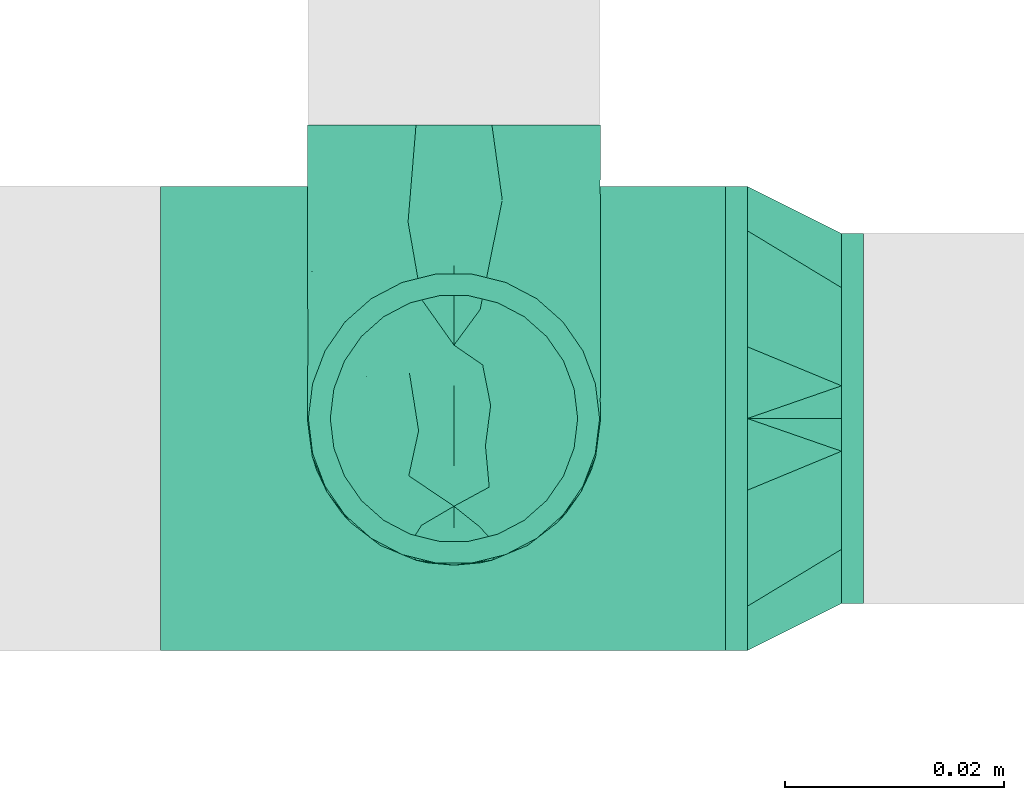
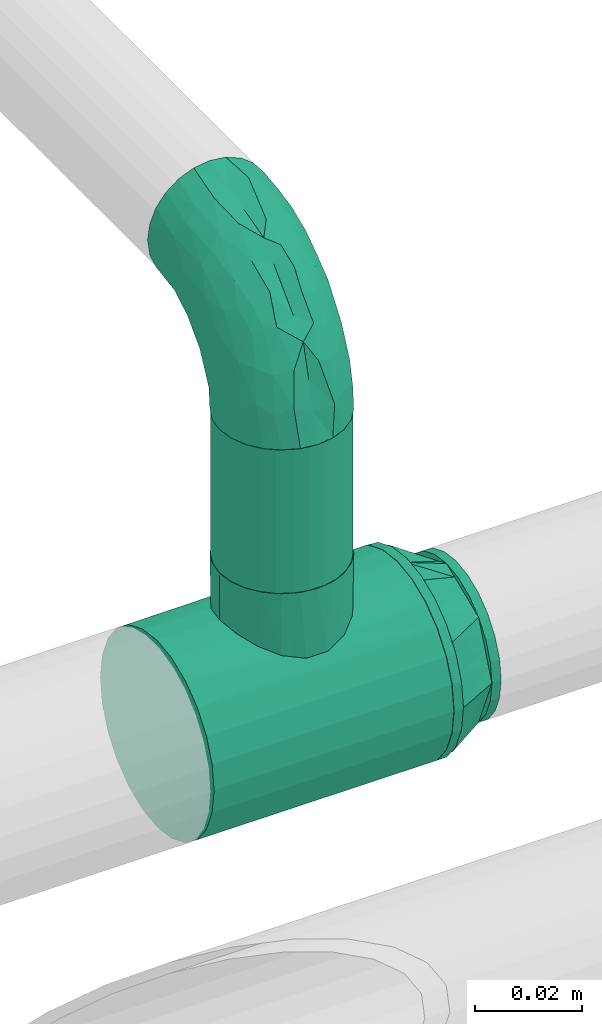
# One storey, part 18 of 35: 3 flow fittings, 1 flow segment.
"""IFC2X3 building model written with IfcOpenShell, lengths in millimetres."""

from ifc_helpers import new_model, entity, si_unit, converted_unit, derived_unit, direction, frame, origin_with_axes, origin_2d_with_axis, place, context, subcontext, project, spatial, hollow_circle, extrude, open_shell, surface_model, source, transform, mapped, type_object, element, save


model = new_model("IFC2X3")

# Units and contexts
model_context = context("Model", 3, precision=0.01, world=frame((0.0, 4.29681676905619e-09, 0.0)), true_north=direction((4.01073788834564e-13, 1.0)))
plan_context = context("Plan", 3, precision=0.01, world=frame((0.0, 4.29681676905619e-09, 0.0)), true_north=direction((4.01073788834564e-13, 1.0)))
body_context = subcontext(model_context, "Body", "Model", "MODEL_VIEW")
ifc_project = project(units=[converted_unit("PLANEANGLEUNIT", "DEGREE", entity("IfcPositiveLengthMeasure", 0.0174532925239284), si_unit("PLANEANGLEUNIT", "RADIAN"), dimensions=[0, 0, 0, 0, 0, 0, 0]), si_unit("AREAUNIT", "SQUARE_METRE"), si_unit("LENGTHUNIT", "METRE", prefix="MILLI"), si_unit("MASSUNIT", "GRAM", prefix="KILO"), si_unit("POWERUNIT", "WATT"), si_unit("PRESSUREUNIT", "PASCAL"), si_unit("FORCEUNIT", "NEWTON", prefix="KILO"), si_unit("ELECTRICVOLTAGEUNIT", "VOLT"), si_unit("ELECTRICCURRENTUNIT", "AMPERE"), si_unit("THERMODYNAMICTEMPERATUREUNIT", "DEGREE_CELSIUS"), si_unit("TIMEUNIT", "SECOND"), si_unit("VOLUMEUNIT", "CUBIC_METRE"), derived_unit("LINEARVELOCITYUNIT", [(si_unit("LENGTHUNIT", "METRE"), 1), (si_unit("TIMEUNIT", "SECOND"), -1)]), derived_unit("VOLUMETRICFLOWRATEUNIT", [(si_unit("VOLUMEUNIT", "CUBIC_METRE"), 1), (si_unit("TIMEUNIT", "SECOND"), -1)]), derived_unit("THERMALTRANSMITTANCEUNIT", [(si_unit("POWERUNIT", "WATT"), 1), (si_unit("THERMODYNAMICTEMPERATUREUNIT", "KELVIN"), -1), (si_unit("AREAUNIT", "SQUARE_METRE"), -1)]), derived_unit("SOUNDPRESSUREUNIT", [(si_unit("PRESSUREUNIT", "PASCAL"), 1)])], contexts=[model_context, plan_context])

# Site, building, storey
site_placement = place(None, frame((0.0, -4.29681676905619e-09, 0.0), z_axis=(0.0, 0.0, 1.0), x_axis=(1.0, 0.0, 0.0)))
site = spatial("IfcSite", under=ifc_project, at=site_placement, Name="ENGM", CompositionType="ELEMENT")
building_placement = place(site_placement, frame((0.0, 4.29681676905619e-09, 0.0), z_axis=(0.0, 0.0, 1.0), x_axis=(1.0, 0.0, 0.0)))
building = spatial("IfcBuilding", under=site, at=building_placement, Name="TH", CompositionType="ELEMENT")
storey_placement = place(building_placement, frame((0.0, 0.0, 210200.0), z_axis=(0.0, 0.0, 1.0), x_axis=(1.0, 0.0, 0.0)))
storey = spatial("IfcBuildingStorey", under=building, at=storey_placement, Name="Nivå F - 0,7 m", CompositionType="ELEMENT", Elevation=210200.0)

# Flow fittings
pipe_fitting_type_1 = type_object("IfcPipeFittingType", Name="magi_pipe_fe_elbow_short_001", PredefinedType="BEND")
shared_shape_1 = source(origin_with_axes(), body_context, "Body", "SurfaceModel", [
    surface_model("IfcShellBasedSurfaceModel", [(-26.8, 0.0, -13.4), (-26.8, -12.94341, -3.46818), (-26.8, 3.46818, -12.94341), (-26.8, 6.7, -11.60474), (-26.8, 9.47523, -9.47523), (-26.8, 11.60474, -6.7), (-26.8, 11.60474, 6.7), (-26.8, -9.47523, -9.47523), (-26.8, -6.7, -11.60474), (-26.8, -3.46818, -12.94341), (-26.8, -11.60474, -6.7), (-26.8, -13.4, 0.0), (-26.8, -12.94341, 3.46818), (-26.8, 12.94341, -3.46818), (-26.8, 12.94341, 3.46818), (-26.8, 3.46818, 12.94341), (-26.8, 6.7, 11.60474), (-26.8, 9.47523, 9.47523), (-26.8, -6.7, 11.60474), (-26.8, -11.60474, 6.7), (-26.8, -9.47523, 9.47523), (-26.8, -3.46818, 12.94341), (-26.8, 0.0, 13.4), (-26.8, 13.4, 0.0), (-3.46818, 26.8, -12.94341), (12.94341, 26.8, -3.46818), (0.0, 26.8, -13.4), (-9.47523, 26.8, -9.47523), (-6.7, 26.8, -11.60474), (-11.60474, 26.8, -6.7), (-11.60474, 26.8, 6.7), (6.7, 26.8, -11.60474), (9.47523, 26.8, -9.47523), (3.46818, 26.8, -12.94341), (11.60474, 26.8, -6.7), (12.94341, 26.8, 3.46818), (13.4, 26.8, 0.0), (-13.4, 26.8, 0.0), (-12.94341, 26.8, -3.46818), (-12.94341, 26.8, 3.46818), (-9.47523, 26.8, 9.47523), (-6.7, 26.8, 11.60474), (-3.46818, 26.8, 12.94341), (6.7, 26.8, 11.60474), (9.47523, 26.8, 9.47523), (11.60474, 26.8, 6.7), (3.46818, 26.8, 12.94341), (0.0, 26.8, 13.4), (-17.94383, -11.72186, 4.19396), (-19.61933, -10.40522, 7.51874), (-14.00394, -9.97131, 0.0), (-10.88146, -9.75217, 2.96415), (5.6402, 4.14256, 4.06277), (2.9355, 3.86758, 7.99817), (-0.16552, -0.70254, 6.90229), (-11.69279, -8.47867, 6.74741), (-3.60975, -5.23517, 4.12915), (-20.40197, -11.68565, 0.0), (6.07727, 10.7767, 9.16668), (7.71917, 17.5318, 9.98024), (3.23022, 10.34855, 11.14395), (-17.5318, -7.71917, 9.98024), (-19.6814, -5.06542, 12.05518), (-20.47091, -1.77513, 13.17083), (-18.76435, 2.05404, 13.37716), (-10.34855, -3.23022, 11.14395), (-13.34095, -0.12025, 12.98799), (-20.6562, 5.25542, 12.65822), (-21.01515, 11.15223, 8.78653), (-19.1981, 14.0055, 6.12639), (-23.45804, 12.58298, 5.55254), (-13.79572, 19.62699, 6.0655), (-4.65712, 13.17755, 13.37596), (-9.92557, 9.92557, 13.07441), (-7.97904, 5.85569, 13.33097), (-14.12498, 14.96497, 9.49183), (-23.18377, 8.11481, 10.91864), (-3.49778, 8.97497, 13.15743), (-6.65819, 2.45826, 12.5129), (-1.36893, 7.23965, 12.31444), (-22.3163, 13.71444, 3.37662), (-20.76788, 15.89859, 0.0), (-5.00198, 23.11411, 12.55149), (-1.83653, 20.04451, 13.36709), (5.06542, 19.6814, 12.05518), (-4.60225, -3.19632, 8.30444), (-2.39362, 2.39362, 10.95564), (1.77513, 20.47091, 13.17083), (10.40522, 19.61933, 7.51874), (8.47867, 11.69279, 6.74741), (11.72186, 17.94383, 4.19396), (-10.7767, -6.07727, 9.16668), (-14.71477, 20.20527, 3.11661), (-18.32912, 15.92283, 3.19527), (9.75217, 10.88146, 2.96415), (9.97131, 14.00394, 0.0), (11.68565, 20.40197, 0.0), (-17.32477, 17.32477, 0.0), (8.01422, 6.7, 0.0), (-11.0099, 17.80242, 10.25412), (-8.46783, 20.75346, 11.10693), (-11.06207, 21.36651, 8.74797), (-10.13559, 14.48567, 11.94159), (-5.79525, 18.15733, 12.76163), (-14.31139, 12.02432, 11.13575), (-6.7, -8.01422, 0.0), (-14.72492, 5.73985, 13.1602), (-13.14892, 3.28357, 13.39428), (-14.24576, 9.09225, 12.39421), (-7.80572, 13.90987, 12.83655), (0.12025, 13.34095, 12.98799), (-18.45241, 9.09615, 11.28418), (-1.02036, 0.84565, 9.15855), (-3.66591, -4.13183, 6.30134), (-3.02144, -4.33567, 0.0), (1.56761, -1.1228, 3.23127), (-15.89859, 20.76788, 0.0), (4.33567, 3.02144, 0.0), (0.65711, -0.65711, 0.0), (-21.21323, 1.69434, -13.35639), (-11.59215, 19.61477, -8.94181), (-19.9553, -12.05444, -4.41231), (-20.61911, 5.26132, -12.65979), (-18.29002, 15.89425, -3.37935), (-10.94714, -3.38176, -11.24231), (-11.6358, -0.16715, -12.74497), (-5.38395, -0.22423, -10.97991), (-19.45447, 8.78609, -11.20697), (-21.18665, 11.10723, -8.76769), (8.05635, 19.80434, -10.14754), (-16.16073, 12.27967, -10.10626), (-10.65974, -9.81032, -2.24682), (-4.63434, -6.26604, -3.21731), (-12.41035, 15.57424, -10.31822), (-9.54276, 16.38525, -11.6371), (-12.38435, 12.38435, -11.76567), (-1.18054, -2.52878, -5.66699), (1.17703, 2.36499, -8.51656), (4.94456, 3.94062, -5.27361), (-13.23013, 7.7548, -12.95755), (-18.92609, -10.30887, -7.4546), (-19.80434, -8.05635, -10.14754), (-5.46999, 19.49566, -12.70683), (12.05444, 19.9553, -4.41231), (-22.63124, -5.28269, -12.19553), (-11.57403, -7.91736, -7.4927), (-10.00514, -5.4662, -9.37392), (0.56412, 6.29454, -11.17498), (0.16715, 11.6358, -12.74497), (2.76952, 11.43973, -11.70622), (-22.71135, 13.83144, -2.294), (-13.13887, 21.26515, -5.84046), (-14.02683, 21.74629, -2.98452), (10.30887, 18.92609, -7.4546), (-4.73052, 4.73052, -12.6532), (-16.28385, 15.93209, -6.57302), (-1.69434, 21.21323, -13.35639), (-8.4106, 21.03687, -11.08508), (1.68957, 19.74249, -13.15499), (5.28269, 22.63124, -12.19553), (-19.74249, -1.68957, -13.15499), (-16.96978, -4.62448, -11.91765), (-3.16773, 14.76219, -13.39711), (-7.24575, 7.81916, -13.39239), (-7.92886, 12.7032, -13.00116), (-6.57993, -6.26304, -6.05124), (9.46363, 9.95483, -2.39006), (6.59847, 4.89531, -2.6225), (0.29079, -2.47661, -2.876), (-21.42347, 13.17132, -5.65321), (9.35918, 11.66841, -5.08525), (8.33374, 12.94014, -7.69724), (5.4662, 10.00514, -9.37392), (4.62448, 16.96978, -11.91765), (-3.89324, -2.60816, -8.35445), (5.97121, 7.49007, -7.29975), (-14.76219, 3.16773, -13.39711), (-15.36238, 22.06238, 0.0), (-11.66841, -9.35918, -5.08525), (3.63632, 1.19488, -3.35093), (-14.94382, 15.17624, -8.6945)], [open_shell([[[0, 1, 2]], [[3, 2, 4]], [[5, 2, 1]], [[4, 2, 5]], [[5, 1, 6]], [[7, 1, 8]], [[0, 9, 8]], [[10, 1, 7]], [[8, 1, 0]], [[11, 12, 1]], [[13, 5, 14]], [[5, 6, 14]], [[1, 15, 6]], [[15, 16, 17]], [[6, 15, 17]], [[1, 18, 15]], [[19, 20, 12]], [[18, 12, 20]], [[18, 21, 15]], [[18, 1, 12]], [[15, 21, 22]], [[14, 23, 13]], [[24, 25, 26]], [[27, 24, 28]], [[25, 24, 29]], [[29, 24, 27]], [[30, 25, 29]], [[31, 25, 32]], [[31, 33, 26]], [[32, 25, 34]], [[26, 25, 31]], [[25, 35, 36]], [[37, 29, 38]], [[39, 30, 29]], [[30, 40, 25]], [[40, 41, 42]], [[42, 25, 40]], [[43, 25, 42]], [[35, 44, 45]], [[44, 35, 43]], [[42, 46, 43]], [[35, 25, 43]], [[47, 46, 42]], [[39, 29, 37]], [[48, 49, 19]], [[48, 50, 51]], [[52, 53, 54]], [[55, 51, 56]], [[49, 20, 19]], [[57, 48, 12]], [[58, 59, 60]], [[61, 18, 20]], [[61, 62, 18]], [[22, 63, 64]], [[62, 65, 66]], [[59, 44, 43]], [[22, 21, 63]], [[67, 16, 15]], [[68, 69, 70]], [[30, 39, 71]], [[72, 73, 74]], [[69, 68, 75]], [[22, 64, 15]], [[16, 76, 17]], [[6, 17, 68]], [[77, 78, 79]], [[80, 81, 23]], [[42, 82, 83]], [[43, 84, 59]], [[85, 86, 65]], [[46, 47, 87]], [[88, 89, 90]], [[91, 65, 61]], [[47, 42, 83]], [[71, 92, 93]], [[90, 94, 95]], [[84, 43, 46]], [[88, 90, 45]], [[59, 84, 60]], [[35, 45, 90]], [[75, 71, 69]], [[18, 62, 21]], [[90, 96, 35]], [[97, 81, 93]], [[94, 98, 95]], [[92, 97, 93]], [[50, 48, 57]], [[70, 14, 6]], [[99, 100, 101]], [[40, 101, 100]], [[41, 40, 100]], [[102, 103, 100]], [[103, 72, 83]], [[82, 100, 103]], [[82, 42, 41]], [[99, 104, 102]], [[23, 14, 80]], [[67, 15, 64]], [[51, 50, 105]], [[48, 19, 12]], [[49, 55, 61]], [[45, 44, 88]], [[89, 52, 94]], [[106, 107, 74]], [[108, 67, 106]], [[40, 30, 101]], [[103, 102, 109]], [[103, 109, 72]], [[87, 83, 110]], [[76, 68, 17]], [[68, 111, 104]], [[65, 62, 61]], [[63, 62, 66]], [[91, 61, 55]], [[65, 86, 78]], [[87, 84, 46]], [[110, 79, 60]], [[110, 60, 84]], [[86, 112, 60]], [[55, 49, 48]], [[61, 20, 49]], [[44, 59, 88]], [[89, 88, 59]], [[106, 67, 64]], [[76, 67, 111]], [[53, 52, 89]], [[112, 86, 85]], [[56, 113, 55]], [[112, 54, 53]], [[58, 89, 59]], [[56, 51, 105]], [[114, 115, 56]], [[14, 70, 80]], [[69, 71, 93]], [[37, 116, 92]], [[92, 116, 97]], [[30, 71, 101]], [[75, 101, 71]], [[99, 102, 100]], [[108, 104, 111]], [[106, 74, 73]], [[110, 83, 72]], [[78, 74, 66]], [[72, 74, 77]], [[83, 87, 47]], [[84, 87, 110]], [[62, 63, 21]], [[64, 63, 66]], [[12, 11, 57]], [[96, 90, 95]], [[96, 36, 35]], [[115, 117, 52]], [[56, 105, 114]], [[55, 48, 51]], [[89, 94, 90]], [[52, 98, 94]], [[106, 64, 107]], [[108, 106, 73]], [[102, 108, 73]], [[67, 108, 111]], [[102, 104, 108]], [[68, 104, 75]], [[64, 66, 107]], [[66, 74, 107]], [[65, 78, 66]], [[79, 78, 86]], [[60, 79, 86]], [[77, 79, 110]], [[72, 77, 110]], [[78, 77, 74]], [[67, 76, 16]], [[68, 76, 111]], [[100, 82, 41]], [[83, 82, 103]], [[68, 70, 6]], [[80, 69, 93]], [[69, 80, 70]], [[80, 93, 81]], [[55, 85, 91]], [[85, 65, 91]], [[60, 53, 58]], [[53, 89, 58]], [[54, 112, 85]], [[60, 112, 53]], [[85, 113, 54]], [[113, 115, 54]], [[55, 113, 85]], [[115, 113, 56]], [[71, 39, 92]], [[115, 114, 118]], [[37, 92, 39]], [[101, 75, 99]], [[99, 75, 104]], [[102, 73, 109]], [[72, 109, 73]], [[54, 115, 52]], [[117, 115, 118]], [[117, 98, 52]], [[2, 119, 0]], [[29, 27, 120]], [[121, 57, 1]], [[3, 122, 2]], [[97, 123, 81]], [[124, 125, 126]], [[127, 4, 128]], [[32, 129, 31]], [[127, 128, 130]], [[131, 132, 105]], [[133, 134, 135]], [[127, 3, 4]], [[136, 137, 138]], [[139, 122, 127]], [[4, 5, 128]], [[10, 140, 121]], [[141, 140, 7]], [[24, 142, 28]], [[95, 143, 96]], [[144, 8, 9]], [[145, 141, 146]], [[25, 36, 96]], [[147, 148, 149]], [[140, 10, 7]], [[23, 81, 150]], [[130, 133, 135]], [[151, 152, 38]], [[153, 34, 143]], [[147, 154, 148]], [[38, 29, 151]], [[120, 155, 151]], [[32, 153, 129]], [[26, 156, 24]], [[24, 156, 142]], [[143, 34, 25]], [[27, 28, 157]], [[123, 152, 155]], [[158, 33, 159]], [[144, 160, 161]], [[122, 3, 127]], [[148, 162, 158]], [[157, 28, 142]], [[162, 163, 164]], [[159, 33, 31]], [[165, 136, 132]], [[34, 153, 32]], [[166, 98, 167]], [[160, 9, 0]], [[161, 160, 125]], [[95, 166, 143]], [[50, 131, 105]], [[121, 1, 10]], [[168, 114, 132]], [[150, 169, 13]], [[167, 98, 117]], [[33, 158, 26]], [[164, 142, 162]], [[133, 157, 134]], [[7, 8, 141]], [[165, 145, 146]], [[170, 171, 153]], [[129, 172, 173]], [[126, 137, 174]], [[175, 137, 172]], [[148, 158, 173]], [[156, 158, 162]], [[149, 172, 147]], [[148, 154, 163]], [[119, 160, 0]], [[176, 163, 125]], [[176, 125, 160]], [[125, 154, 126]], [[169, 128, 5]], [[127, 130, 135]], [[139, 127, 135]], [[119, 122, 176]], [[120, 151, 29]], [[152, 97, 177]], [[142, 164, 134]], [[120, 27, 157]], [[152, 37, 38]], [[81, 123, 150]], [[123, 155, 169]], [[152, 123, 97]], [[140, 178, 121]], [[121, 178, 131]], [[144, 141, 8]], [[146, 141, 161]], [[25, 96, 143]], [[170, 153, 143]], [[129, 153, 171]], [[159, 129, 173]], [[137, 147, 172]], [[126, 154, 147]], [[172, 171, 175]], [[174, 137, 136]], [[137, 126, 147]], [[126, 146, 124]], [[117, 118, 179]], [[179, 138, 167]], [[128, 169, 155]], [[5, 13, 169]], [[57, 121, 50]], [[57, 11, 1]], [[122, 119, 2]], [[160, 119, 176]], [[158, 156, 26]], [[142, 156, 162]], [[162, 148, 163]], [[139, 135, 164]], [[125, 163, 154]], [[139, 163, 176]], [[163, 139, 164]], [[122, 139, 176]], [[155, 180, 128]], [[180, 120, 133]], [[180, 133, 130]], [[157, 133, 120]], [[142, 134, 157]], [[164, 135, 134]], [[128, 180, 130]], [[120, 180, 155]], [[152, 151, 155]], [[37, 152, 177]], [[169, 150, 123]], [[23, 150, 13]], [[121, 131, 50]], [[178, 165, 132]], [[178, 132, 131]], [[168, 132, 136]], [[145, 165, 178]], [[174, 165, 146]], [[178, 140, 145]], [[141, 145, 140]], [[179, 136, 138]], [[170, 166, 167]], [[168, 179, 118]], [[170, 167, 138]], [[143, 166, 170]], [[95, 98, 166]], [[117, 179, 167]], [[136, 179, 168]], [[129, 159, 31]], [[158, 159, 173]], [[160, 144, 9]], [[141, 144, 161]], [[175, 170, 138]], [[129, 171, 172]], [[170, 175, 171]], [[137, 175, 138]], [[148, 173, 149]], [[172, 149, 173]], [[165, 174, 136]], [[126, 174, 146]], [[146, 161, 124]], [[125, 124, 161]], [[114, 168, 118]], [[114, 105, 132]]])]),
])
flow_fitting_1_placement = place(storey_placement, frame((900037.00487, 481295.36097, 3070.04999999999), z_axis=(-1.0, 0.0, 0.0), x_axis=(0.0, 0.0, 1.0)))
element("IfcFlowFitting", 1, at=flow_fitting_1_placement, inside=storey, type_object=pipe_fitting_type_1, Name="magi_pipe_fe_elbow_short_001", context=body_context, shape_type="MappedRepresentation", body=[
    mapped(shared_shape_1, transform((0.0, 0.0, 0.0), scale=1.0)),
])
pipe_fitting_type_2 = type_object("IfcPipeFittingType", Name="magi_pipe_fe_tee_centric_90_NOR", PredefinedType="JUNCTION")
shared_shape_2 = source(origin_with_axes(), body_context, "Body", "SurfaceModel", [
    surface_model("IfcShellBasedSurfaceModel", [(26.8, -10.6, 18.35974), (26.8, -20.47763, 5.48696), (26.8, 10.6, 18.35974), (26.8, 0.0, 21.2), (-26.8, 0.0, -21.2), (-26.8, -5.48696, -20.47763), (-26.8, 5.48696, -20.47763), (-26.8, 10.6, -18.35974), (-26.8, 20.47763, -5.48696), (-26.8, 18.35974, -10.6), (-26.8, 14.99066, -14.99066), (-26.8, -14.99066, -14.99066), (-26.8, -18.35974, -10.6), (-26.8, -10.6, -18.35974), (-26.8, -20.47763, -5.48696), (-26.8, -21.2, 0.0), (-26.8, -18.35974, 10.6), (-26.8, 20.47763, 5.48696), (-26.8, 18.35974, 10.6), (-26.8, 10.6, 18.35974), (-26.8, 14.99066, 14.99066), (-26.8, 5.48696, 20.47763), (-26.8, 0.0, 21.2), (-26.8, -14.99066, 14.99066), (-26.8, -10.6, 18.35974), (-26.8, -20.47763, 5.48696), (-26.8, -5.48696, 20.47763), (-26.8, 21.2, 0.0), (26.8, 5.48696, -20.47763), (26.8, -5.48696, -20.47763), (26.8, 0.0, -21.2), (26.8, 14.99066, -14.99066), (26.8, 10.6, -18.35974), (26.8, 18.35974, -10.6), (26.8, 20.47763, -5.48696), (26.8, -21.2, 0.0), (26.8, -10.6, -18.35974), (26.8, -18.35974, -10.6), (26.8, -14.99066, -14.99066), (26.8, -20.47763, -5.48696), (26.8, 21.2, 0.0), (26.8, 20.47763, 5.48696), (26.8, 18.35974, 10.6), (26.8, 14.99066, 14.99066), (26.8, 5.48696, 20.47763), (26.8, -14.99066, 14.99066), (26.8, -18.35974, 10.6), (26.8, -5.48696, 20.47763), (26.8, -20.83881, 2.74348), (12.55421, -20.67578, 4.68529), (12.9771, -20.93789, 2.34264), (10.22302, -19.34917, 8.66313), (6.7557, -17.76287, 11.5724), (13.4, -21.2, 0.0), (2.38855, -16.60076, 13.1854), (26.8, -19.41868, 8.04348), (-10.22603, -19.35076, 8.65958), (-26.8, -19.41868, 8.04348), (-12.55467, -20.67607, 4.68405), (-26.8, -20.83881, 2.74348), (-12.97733, -20.93803, 2.34203), (-13.4, -21.2, 0.0), (-6.7569, -17.76332, 11.5717), (-2.39255, -16.60133, 13.18468), (6.7557, -17.76287, -11.5724), (-12.97733, -20.93803, -2.34203), (2.38855, -16.60076, -13.1854), (10.22302, -19.34917, -8.66313), (12.9771, -20.93789, -2.34264), (-26.8, -20.83881, -2.74348), (-12.55467, -20.67607, -4.68405), (12.55421, -20.67578, -4.68529), (26.8, -20.83881, -2.74348), (26.8, -19.41868, -8.04348), (-2.39255, -16.60133, -13.18468), (-6.7569, -17.76332, -11.5717), (-10.22603, -19.35076, -8.65958), (-26.8, -19.41868, -8.04348), (9.47523, -31.8, -9.47523), (0.0, -31.8, -13.4), (3.46818, -31.8, -12.94341), (6.7, -31.8, -11.60474), (11.60474, -31.8, -6.7), (12.94341, -31.8, -3.46818), (-12.94341, -31.8, 3.46818), (-12.94341, -31.8, -3.46818), (-3.46818, -31.8, -12.94341), (-9.47523, -31.8, -9.47523), (-6.7, -31.8, -11.60474), (-11.60474, -31.8, -6.7), (-13.4, -31.8, 0.0), (13.4, -31.8, 0.0), (12.94341, -31.8, 3.46818), (11.60474, -31.8, 6.7), (6.7, -31.8, 11.60474), (9.47523, -31.8, 9.47523), (3.46818, -31.8, 12.94341), (-9.47523, -31.8, 9.47523), (-11.60474, -31.8, 6.7), (-6.7, -31.8, 11.60474), (-3.46818, -31.8, 12.94341), (0.0, -31.8, 13.4), (-0.002, -16.60105, 13.18504), (4.57212, -17.18181, 12.3789), (4.57212, -17.18181, -12.3789), (-0.002, -16.60105, -13.18504)], [open_shell([[[0, 1, 2]], [[2, 3, 0]], [[4, 5, 6]], [[7, 6, 8]], [[8, 9, 10]], [[7, 8, 10]], [[8, 6, 5]], [[11, 12, 13]], [[5, 13, 12]], [[14, 15, 12]], [[5, 12, 16]], [[15, 16, 12]], [[8, 5, 16]], [[16, 17, 8]], [[18, 17, 19]], [[19, 17, 16]], [[20, 18, 19]], [[21, 19, 22]], [[23, 24, 16]], [[16, 15, 25]], [[26, 22, 24]], [[19, 16, 24]], [[19, 24, 22]], [[27, 8, 17]], [[28, 29, 30]], [[31, 28, 32]], [[33, 34, 28]], [[33, 28, 31]], [[35, 28, 34]], [[36, 37, 38]], [[37, 36, 29]], [[37, 35, 39]], [[35, 37, 29]], [[29, 28, 35]], [[34, 1, 35]], [[40, 41, 42]], [[40, 42, 2]], [[40, 2, 1]], [[2, 42, 43]], [[3, 2, 44]], [[1, 45, 46]], [[45, 1, 0]], [[0, 3, 47]], [[40, 1, 34]], [[48, 1, 49]], [[35, 48, 50]], [[1, 51, 49]], [[46, 45, 52]], [[35, 50, 53]], [[52, 51, 46]], [[54, 52, 45]], [[48, 49, 50]], [[45, 23, 54]], [[46, 51, 55]], [[56, 16, 57]], [[58, 59, 60]], [[61, 60, 15]], [[58, 56, 25]], [[62, 63, 23]], [[51, 1, 55]], [[62, 16, 56]], [[16, 62, 23]], [[56, 57, 25]], [[63, 54, 23]], [[15, 60, 59]], [[58, 25, 59]], [[45, 24, 23]], [[22, 47, 3]], [[26, 0, 47]], [[21, 3, 44]], [[42, 41, 17]], [[20, 2, 43]], [[18, 43, 42]], [[44, 2, 19]], [[27, 41, 40]], [[24, 0, 26]], [[26, 47, 22]], [[21, 22, 3]], [[44, 19, 21]], [[19, 2, 20]], [[18, 20, 43]], [[17, 18, 42]], [[41, 27, 17]], [[0, 24, 45]], [[9, 34, 33]], [[8, 40, 34]], [[10, 33, 31]], [[30, 29, 5]], [[6, 32, 28]], [[4, 28, 30]], [[31, 32, 7]], [[13, 29, 36]], [[27, 40, 8]], [[8, 34, 9]], [[10, 9, 33]], [[31, 7, 10]], [[7, 32, 6]], [[4, 6, 28]], [[5, 4, 30]], [[29, 13, 5]], [[36, 11, 13]], [[38, 37, 64]], [[15, 65, 61]], [[64, 66, 38]], [[37, 67, 64]], [[38, 66, 11]], [[53, 68, 35]], [[69, 70, 65]], [[71, 67, 39]], [[71, 72, 68]], [[67, 37, 73]], [[39, 67, 73]], [[74, 75, 11]], [[76, 14, 77]], [[12, 11, 75]], [[75, 76, 12]], [[74, 11, 66]], [[76, 70, 14]], [[71, 39, 72]], [[70, 69, 14]], [[65, 15, 69]], [[35, 68, 72]], [[76, 77, 12]], [[38, 11, 36]], [[78, 79, 80]], [[78, 80, 81]], [[78, 82, 83]], [[79, 78, 84]], [[84, 85, 79]], [[86, 87, 88]], [[86, 79, 87]], [[89, 87, 79]], [[79, 85, 89]], [[85, 84, 90]], [[84, 78, 83]], [[91, 92, 93]], [[93, 94, 83]], [[94, 84, 83]], [[94, 93, 95]], [[84, 94, 96]], [[84, 97, 98]], [[97, 84, 99]], [[84, 100, 99]], [[100, 84, 101]], [[84, 96, 101]], [[83, 91, 93]], [[84, 60, 90]], [[56, 98, 97]], [[84, 98, 58]], [[97, 99, 62]], [[84, 58, 60]], [[60, 61, 90]], [[58, 98, 56]], [[50, 91, 53]], [[62, 100, 63]], [[62, 56, 97]], [[101, 54, 102]], [[62, 99, 100]], [[54, 101, 96]], [[103, 94, 52]], [[51, 95, 93]], [[94, 95, 52]], [[49, 93, 92]], [[95, 51, 52]], [[54, 96, 103]], [[50, 49, 92]], [[91, 50, 92]], [[49, 51, 93]], [[94, 103, 96]], [[101, 63, 100]], [[102, 63, 101]], [[83, 68, 91]], [[67, 82, 78]], [[83, 82, 71]], [[78, 81, 64]], [[68, 53, 91]], [[71, 82, 67]], [[80, 66, 104]], [[64, 67, 78]], [[79, 74, 105]], [[65, 90, 61]], [[104, 81, 80]], [[65, 70, 85]], [[86, 88, 75]], [[86, 74, 79]], [[70, 89, 85]], [[104, 64, 81]], [[79, 66, 80]], [[83, 71, 68]], [[86, 75, 74]], [[75, 88, 87]], [[75, 87, 76]], [[76, 87, 89]], [[76, 89, 70]], [[90, 65, 85]], [[105, 66, 79]]])]),
])
flow_fitting_2_placement = place(storey_placement, frame((900037.00487, 481295.36097, 2978.79999999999), z_axis=(0.0, -1.0, 0.0), x_axis=(-1.0, 0.0, 0.0)))
element("IfcFlowFitting", 2, at=flow_fitting_2_placement, inside=storey, type_object=pipe_fitting_type_2, Name="magi_pipe_fe_tee_centric_90_NOR", context=body_context, shape_type="MappedRepresentation", body=[
    mapped(shared_shape_2, transform((0.0, 0.0, 0.0), scale=1.0)),
])
pipe_fitting_type_3 = type_object("IfcPipeFittingType", Name="magi_pipe_fe_reducer_centric_short_NOR", PredefinedType="TRANSITION")
shared_shape_3 = source(origin_with_axes(), body_context, "Body", "SurfaceModel", [
    surface_model("IfcShellBasedSurfaceModel", [(-2.0, 5.48696, -20.47763), (-2.0, 0.0, -21.2), (-2.0, 10.6, -18.35974), (-2.0, -10.6, -18.35974), (-2.0, -5.48696, -20.47763), (0.0, 17.15116, 12.46105), (0.0, 6.55116, -20.1624), (0.0, -21.2, 0.0), (0.0, -6.55116, -20.1624), (10.6, -11.9501, -11.9501), (10.6, -8.45, -14.63583), (10.6, -4.37404, -16.32415), (10.6, 8.45, -14.63583), (10.6, 16.9, 0.0), (10.6, -14.63583, -8.45), (10.6, -16.32415, -4.37404), (10.6, -4.37404, 16.32415), (10.6, 4.37404, -16.32415), (10.6, 0.0, -16.9), (10.6, 14.63583, -8.45), (10.6, 16.32415, -4.37404), (10.6, 11.9501, -11.9501), (10.6, -16.32415, 4.37404), (10.6, -16.9, 0.0), (10.6, -11.9501, 11.9501), (10.6, -14.63583, 8.45), (10.6, -8.45, 14.63583), (10.6, 0.0, 16.9), (10.6, 16.32415, 4.37404), (10.6, 14.63583, 8.45), (10.6, 11.9501, 11.9501), (10.6, 8.45, 14.63583), (10.6, 4.37404, 16.32415), (8.6, 0.0, 16.9), (8.6, 14.63583, 8.45), (8.6, -4.37404, 16.32415), (8.6, -8.45, 14.63583), (8.6, -16.32415, 4.37404), (8.6, -14.63583, 8.45), (8.6, -11.9501, 11.9501), (8.6, 11.9501, 11.9501), (8.6, 8.45, 14.63583), (8.6, 4.37404, 16.32415), (8.6, 16.32415, 4.37404), (8.6, 16.9, 0.0), (8.6, 16.32415, -4.37404), (8.6, 8.45, -14.63583), (8.6, -11.9501, -11.9501), (8.6, -16.32415, -4.37404), (8.6, -14.63583, -8.45), (8.6, -4.37404, -16.32415), (8.6, -8.45, -14.63583), (8.6, 14.63583, -8.45), (8.6, 11.9501, -11.9501), (8.6, 4.37404, -16.32415), (8.6, 0.0, -16.9), (8.6, -16.9, 0.0), (-2.0, -10.6, 18.35974), (-2.0, -5.48696, 20.47763), (-2.0, 0.0, 21.2), (-2.0, -14.99066, 14.99066), (-2.0, -20.47763, 5.48696), (-2.0, -18.35974, 10.6), (-2.0, 14.99066, -14.99066), (-2.0, 21.2, 0.0), (-2.0, 10.6, 18.35974), (-2.0, 14.99066, 14.99066), (-2.0, 5.48696, 20.47763), (-2.0, 20.47763, 5.48696), (-2.0, 18.35974, 10.6), (-2.0, -20.47763, -5.48696), (-2.0, -18.35974, -10.6), (-2.0, -14.99066, -14.99066), (-2.0, 20.47763, -5.48696), (-2.0, 18.35974, -10.6), (-2.0, -21.2, 0.0), (0.0, -5.48696, -20.47763), (0.0, 0.0, -21.2), (0.0, -10.6, -18.35974), (0.0, -14.99066, -14.99066), (0.0, -20.47763, -5.48696), (0.0, 21.2, 0.0), (0.0, -18.35974, -10.6), (0.0, 14.99066, -14.99066), (0.0, 5.48696, -20.47763), (0.0, 10.6, -18.35974), (0.0, 20.47763, -5.48696), (0.0, 18.35974, -10.6), (0.0, -14.99066, 14.99066), (0.0, -18.35974, 10.6), (0.0, -20.47763, 5.48696), (0.0, 0.0, 21.2), (0.0, -5.48696, 20.47763), (0.0, -10.6, 18.35974), (0.0, 14.99066, 14.99066), (0.0, 20.47763, 5.48696), (0.0, 18.35974, 10.6), (0.0, 10.6, 18.35974), (0.0, 5.48696, 20.47763), (0.0, -17.15116, 12.46105), (0.0, 6.55116, 20.1624), (0.0, -6.55116, 20.1624), (0.0, 17.15116, -12.46105), (0.0, -17.15116, -12.46105), (8.6, 13.18758, -8.96258), (8.6, 2.98753, -15.66253), (0.0, 0.0, -20.1624), (0.0, 18.16337, -9.34579), (0.0, 19.17558, -6.23052), (8.6, 14.42505, -5.97505), (8.6, -5.97505, -14.42505), (8.6, -8.96258, -13.18758), (0.0, -11.85116, -16.31172), (8.6, -2.98753, -15.66253), (8.6, -13.18758, -8.96258), (8.6, -14.42505, -5.97505), (0.0, -19.17558, -6.23052), (8.6, -15.66253, -2.98753), (8.6, 15.66253, -2.98753), (0.0, 11.85116, -16.31172), (8.6, 8.96258, -13.18758), (8.6, 5.97505, -14.42505), (8.6, -13.18758, 8.96258), (8.6, -2.98753, 15.66253), (0.0, 0.0, 20.1624), (0.0, -18.16337, 9.34579), (0.0, -19.17558, 6.23052), (8.6, -14.42505, 5.97505), (8.6, 5.97505, 14.42505), (8.6, 8.96258, 13.18758), (0.0, 11.85116, 16.31172), (8.6, 2.98753, 15.66253), (8.6, 13.18758, 8.96258), (8.6, 14.42505, 5.97505), (0.0, 19.17558, 6.23052), (8.6, 15.66253, 2.98753), (8.6, -15.66253, 2.98753), (0.0, -11.85116, 16.31172), (8.6, -8.96258, 13.18758), (8.6, -5.97505, 14.42505)], [open_shell([[[0, 1, 2]], [[3, 1, 4]], [[5, 6, 7]], [[7, 6, 8]], [[9, 10, 11]], [[9, 11, 12]], [[12, 13, 9]], [[14, 9, 15]], [[9, 16, 15]], [[17, 12, 18]], [[12, 11, 18]], [[19, 20, 21]], [[12, 21, 20]], [[20, 13, 12]], [[22, 23, 15]], [[24, 25, 22]], [[16, 24, 22]], [[9, 13, 16]], [[26, 24, 16]], [[27, 16, 13]], [[28, 29, 27]], [[27, 13, 28]], [[30, 31, 29]], [[31, 27, 29]], [[32, 27, 31]], [[22, 15, 16]], [[33, 34, 35]], [[36, 35, 37]], [[37, 38, 39]], [[36, 37, 39]], [[37, 35, 34]], [[40, 34, 41]], [[33, 42, 41]], [[41, 34, 33]], [[37, 34, 43]], [[44, 45, 43]], [[46, 37, 43]], [[47, 48, 37]], [[49, 48, 47]], [[50, 51, 47]], [[47, 37, 46]], [[47, 46, 50]], [[52, 53, 45]], [[46, 45, 53]], [[54, 55, 46]], [[46, 43, 45]], [[46, 55, 50]], [[56, 37, 48]], [[44, 20, 45]], [[45, 19, 52]], [[46, 53, 12]], [[21, 53, 52]], [[54, 46, 17]], [[20, 19, 45]], [[44, 13, 20]], [[46, 12, 17]], [[12, 53, 21]], [[52, 19, 21]], [[54, 17, 18]], [[18, 55, 54]], [[55, 11, 50]], [[50, 10, 51]], [[49, 47, 14]], [[9, 47, 51]], [[48, 49, 15]], [[10, 9, 51]], [[50, 11, 10]], [[48, 15, 23]], [[15, 49, 14]], [[47, 9, 14]], [[48, 23, 56]], [[18, 11, 55]], [[56, 22, 37]], [[37, 25, 38]], [[36, 39, 26]], [[24, 39, 38]], [[35, 36, 16]], [[22, 25, 37]], [[56, 23, 22]], [[36, 26, 16]], [[26, 39, 24]], [[38, 25, 24]], [[35, 16, 27]], [[27, 33, 35]], [[33, 32, 42]], [[42, 31, 41]], [[34, 40, 29]], [[30, 40, 41]], [[43, 34, 28]], [[31, 30, 41]], [[42, 32, 31]], [[43, 28, 13]], [[28, 34, 29]], [[40, 30, 29]], [[43, 13, 44]], [[27, 32, 33]], [[57, 58, 59]], [[60, 57, 59]], [[61, 62, 60]], [[59, 61, 60]], [[63, 59, 64]], [[65, 66, 67]], [[66, 59, 67]], [[68, 64, 69]], [[59, 66, 69]], [[59, 69, 64]], [[63, 61, 59]], [[3, 70, 61]], [[71, 70, 72]], [[3, 61, 63]], [[72, 70, 3]], [[73, 74, 64]], [[64, 74, 63]], [[3, 63, 2]], [[3, 2, 1]], [[75, 61, 70]], [[76, 77, 78]], [[79, 78, 80]], [[81, 80, 78]], [[82, 79, 80]], [[78, 83, 81]], [[84, 85, 77]], [[85, 78, 77]], [[86, 81, 87]], [[83, 78, 85]], [[81, 83, 87]], [[80, 81, 7]], [[88, 89, 90]], [[91, 88, 90]], [[91, 92, 93]], [[88, 91, 93]], [[94, 91, 90]], [[95, 96, 81]], [[94, 81, 96]], [[97, 98, 94]], [[90, 81, 94]], [[94, 98, 91]], [[7, 81, 90]], [[64, 86, 73]], [[73, 87, 74]], [[2, 63, 85]], [[83, 63, 74]], [[0, 2, 84]], [[86, 87, 73]], [[64, 81, 86]], [[2, 85, 84]], [[85, 63, 83]], [[74, 87, 83]], [[0, 84, 77]], [[77, 1, 0]], [[1, 76, 4]], [[4, 78, 3]], [[71, 72, 82]], [[79, 72, 3]], [[70, 71, 80]], [[78, 79, 3]], [[4, 76, 78]], [[70, 80, 7]], [[80, 71, 82]], [[72, 79, 82]], [[70, 7, 75]], [[77, 76, 1]], [[75, 90, 61]], [[61, 89, 62]], [[57, 60, 93]], [[88, 60, 62]], [[58, 57, 92]], [[90, 89, 61]], [[75, 7, 90]], [[57, 93, 92]], [[93, 60, 88]], [[62, 89, 88]], [[58, 92, 91]], [[91, 59, 58]], [[59, 98, 67]], [[67, 97, 65]], [[69, 66, 96]], [[94, 66, 65]], [[68, 69, 95]], [[97, 94, 65]], [[67, 98, 97]], [[68, 95, 81]], [[95, 69, 96]], [[66, 94, 96]], [[68, 81, 64]], [[91, 98, 59]], [[39, 44, 40]], [[40, 33, 39]], [[39, 47, 44]], [[55, 44, 47]], [[47, 39, 56]], [[53, 44, 55]], [[5, 7, 99]], [[100, 5, 101]], [[99, 101, 5]], [[5, 81, 102]], [[102, 6, 5]], [[7, 8, 103]], [[104, 53, 102]], [[6, 105, 106]], [[107, 108, 109]], [[110, 111, 112]], [[47, 103, 112]], [[112, 8, 110]], [[55, 113, 106]], [[114, 115, 103]], [[106, 113, 8]], [[116, 117, 7]], [[44, 118, 81]], [[119, 102, 53]], [[120, 121, 119]], [[118, 108, 81]], [[113, 110, 8]], [[6, 121, 105]], [[116, 103, 115]], [[55, 106, 105]], [[103, 47, 114]], [[56, 7, 117]], [[108, 118, 109]], [[107, 104, 102]], [[107, 109, 104]], [[111, 47, 112]], [[6, 119, 121]], [[119, 53, 120]], [[116, 115, 117]], [[122, 39, 99]], [[101, 123, 124]], [[125, 126, 127]], [[128, 129, 130]], [[40, 5, 130]], [[130, 100, 128]], [[33, 131, 124]], [[132, 133, 5]], [[124, 131, 100]], [[134, 135, 81]], [[56, 136, 7]], [[137, 99, 39]], [[138, 139, 137]], [[136, 126, 7]], [[131, 128, 100]], [[101, 139, 123]], [[134, 5, 133]], [[33, 124, 123]], [[5, 40, 132]], [[44, 81, 135]], [[126, 136, 127]], [[125, 122, 99]], [[125, 127, 122]], [[129, 40, 130]], [[101, 137, 139]], [[137, 39, 138]], [[134, 133, 135]]])]),
])
flow_fitting_3_placement = place(storey_placement, frame((900063.80487, 481295.36097, 2978.79999999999), z_axis=(0.0, 0.0, 1.0), x_axis=(1.0, 0.0, 0.0)))
element("IfcFlowFitting", 3, at=flow_fitting_3_placement, inside=storey, type_object=pipe_fitting_type_3, Name="magi_pipe_fe_reducer_centric_short_NOR", context=body_context, shape_type="MappedRepresentation", body=[
    mapped(shared_shape_3, transform((0.0, 0.0, 0.0), scale=1.0)),
])

# Flow segment
pipe_segment_type = type_object("IfcPipeSegmentType", Name="Stålrør normaltykke", PredefinedType="RIGIDSEGMENT")
shared_shape_4 = source(origin_with_axes(), body_context, "Body", "SweptSolid", [
    extrude(hollow_circle(Radius=13.3, WallThickness=2.0, at=origin_2d_with_axis()), frame((0.0, 0.0, 0.0), z_axis=(1.0, 0.0, 0.0), x_axis=(0.0, 1.0, 0.0)), (0.0, 0.0, 1.0), 32.6),
])
flow_segment_placement = place(storey_placement, frame((900037.00487, 481295.36097, 3010.60000000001), z_axis=(0.0, -1.0, 0.0), x_axis=(0.0, 0.0, 1.0)))
element("IfcFlowSegment", 4, at=flow_segment_placement, inside=storey, type_object=pipe_segment_type, Name="Stålrør normaltykke", context=body_context, shape_type="MappedRepresentation", body=[
    mapped(shared_shape_4, transform((0.0, 0.0, 0.0), scale=1.0)),
])

save(model, "model.ifc")
